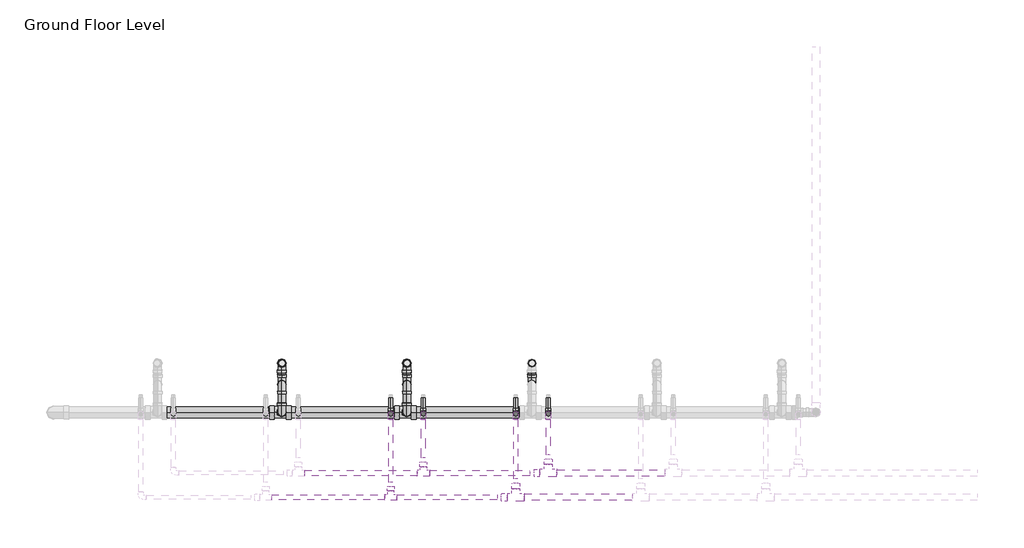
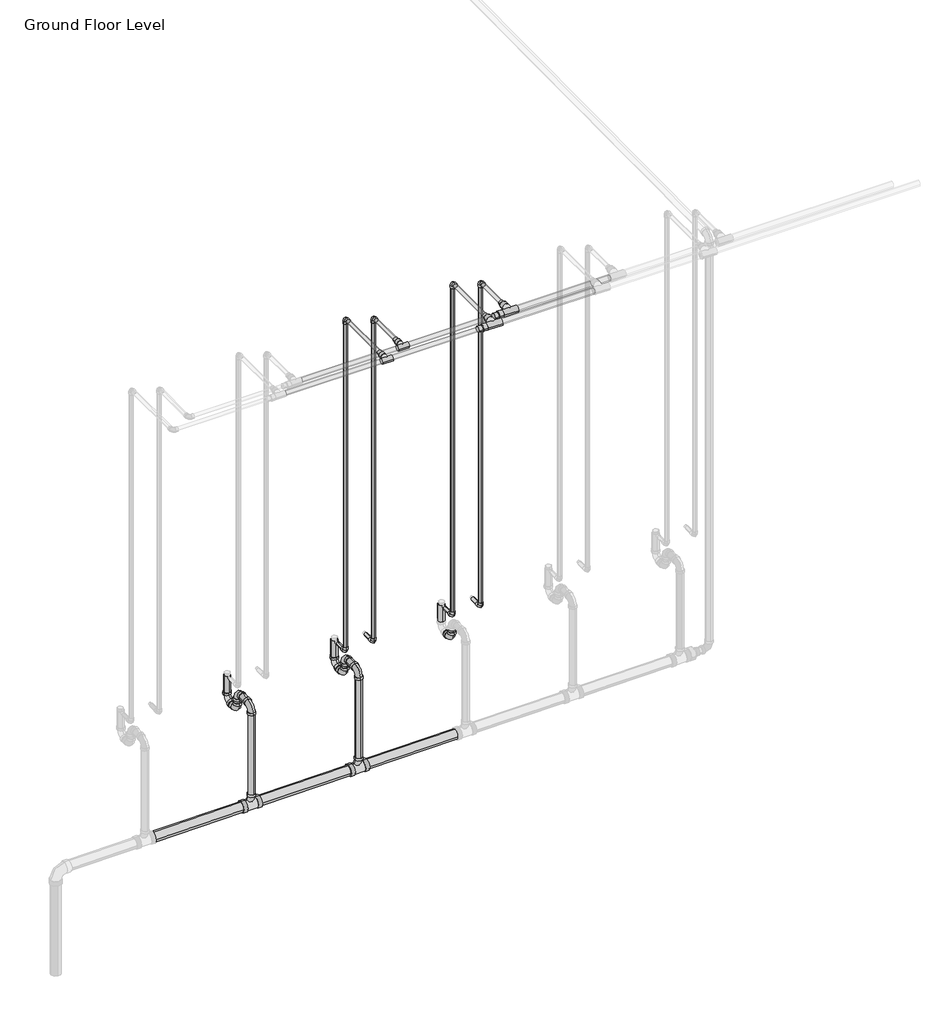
# One storey, part 40 of 74: 34 pipe segments, 29 pipe fittings.
"""IFC4 building model written with IfcOpenShell, lengths in millimetres."""

from ifc_helpers import new_model, si_unit, point, frame, frame_2d, origin, place, context, project, spatial, circle_curve, trimmed, segment, composite_curve, outline, extrude, transform, mapped, element, save
from components import m_bend_pvc_sch_40_dwv_standard_1e7bdcc1, m_bend_pvc_sch_40_dwv_standard_776e50c4, m_tee_reducing_sanitary_pvc_sch_40_dwv_standard_21d2848c, standard_b266ab3f, standard_72b35c3b, standard_08ff6011, standard_d0d0b892, standard_83629b21, standard_e954f56a

model = new_model("IFC4")

# Units and contexts
model_context = context("Model", 3, world=origin())
ifc_project = project(units=[si_unit("LENGTHUNIT", "METRE", prefix="MILLI")], contexts=[model_context])

# Site, building, storey
site = spatial("IfcSite", under=ifc_project)
building = spatial("IfcBuilding", under=site)
storey = spatial("IfcBuildingStorey", under=building, Name="Ground Floor Level", Elevation=900.0)

# Pipe fittings
placement = place(None, origin())
m_bend_pvc_sch_40_dwv_standard_shape = m_bend_pvc_sch_40_dwv_standard_1e7bdcc1(model_context)
element("IfcPipeFitting", 1, ObjectType="M_Bend - PVC - Sch 40 - DWV : Standard", at=placement, inside=storey, context=model_context, shape_type="MappedRepresentation", body=[
    mapped(m_bend_pvc_sch_40_dwv_standard_shape, transform((-19462.4847207, 9458.7835646, 1360.0), x_axis=(0.0, 0.9999500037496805, 0.009999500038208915), y_axis=(0.0, -0.009999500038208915, 0.9999500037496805), z_axis=(1.0, 0.0, 0.0))),
])
element("IfcPipeFitting", 2, ObjectType="M_Bend - PVC - Sch 40 - DWV : Standard", at=placement, inside=storey, context=model_context, shape_type="MappedRepresentation", body=[
    mapped(m_bend_pvc_sch_40_dwv_standard_shape, transform((-20262.4847207, 9458.7835646, 1360.0), x_axis=(0.0, 0.9999500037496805, 0.009999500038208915), y_axis=(0.0, -0.009999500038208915, 0.9999500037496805), z_axis=(1.0, 0.0, 0.0))),
])
element("IfcPipeFitting", 3, ObjectType="M_Bend - PVC - Sch 40 - DWV : Standard", at=placement, inside=storey, context=model_context, shape_type="MappedRepresentation", body=[
    mapped(m_bend_pvc_sch_40_dwv_standard_shape, transform((-19462.2847407, 9143.7835646, 1498.2), x_axis=(0.0, -0.9999500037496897, -0.00999950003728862), y_axis=(0.0, 0.00999950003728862, -0.9999500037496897), z_axis=(1.0, 0.0, 0.0))),
])
element("IfcPipeFitting", 4, ObjectType="M_Bend - PVC - Sch 40 - DWV : Standard", at=placement, inside=storey, context=model_context, shape_type="MappedRepresentation", body=[
    mapped(m_bend_pvc_sch_40_dwv_standard_shape, transform((-20262.2847407, 9143.7835646, 1498.2), x_axis=(0.0, -0.9999500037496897, -0.00999950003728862), y_axis=(0.0, 0.00999950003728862, -0.9999500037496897), z_axis=(1.0, 0.0, 0.0))),
])
m_bend_pvc_sch_40_dwv_standard_2_shape = m_bend_pvc_sch_40_dwv_standard_776e50c4(model_context)
element("IfcPipeFitting", 5, ObjectType="M_Bend - PVC - Sch 40 - DWV : Standard", at=placement, inside=storey, context=model_context, shape_type="MappedRepresentation", body=[
    mapped(m_bend_pvc_sch_40_dwv_standard_2_shape, transform((-18662.4847207, 9323.7835646, 1358.65), x_axis=(0.0, -0.9999500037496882, -0.009999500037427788), y_axis=(0.0, -0.009999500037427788, 0.9999500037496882), z_axis=(-1.0, 0.0, 0.0))),
])
element("IfcPipeFitting", 6, ObjectType="M_Bend - PVC - Sch 40 - DWV : Standard", at=placement, inside=storey, context=model_context, shape_type="MappedRepresentation", body=[
    mapped(m_bend_pvc_sch_40_dwv_standard_2_shape, transform((-19462.4847207, 9323.7835646, 1358.65), x_axis=(0.0, -0.9999500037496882, -0.009999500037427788), y_axis=(0.0, -0.009999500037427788, 0.9999500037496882), z_axis=(-1.0, 0.0, 0.0))),
])
element("IfcPipeFitting", 7, ObjectType="M_Bend - PVC - Sch 40 - DWV : Standard", at=placement, inside=storey, context=model_context, shape_type="MappedRepresentation", body=[
    mapped(m_bend_pvc_sch_40_dwv_standard_2_shape, transform((-19462.4847207, 9323.7835646, 1500.0), x_axis=(0.0, 0.0, 1.0), y_axis=(0.0, -1.0, 0.0), z_axis=(1.0, 0.0, 0.0))),
])
element("IfcPipeFitting", 8, ObjectType="M_Bend - PVC - Sch 40 - DWV : Standard", at=placement, inside=storey, context=model_context, shape_type="MappedRepresentation", body=[
    mapped(m_bend_pvc_sch_40_dwv_standard_2_shape, transform((-20262.4847207, 9323.7835646, 1358.65), x_axis=(0.0, -0.9999500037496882, -0.009999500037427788), y_axis=(0.0, -0.009999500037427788, 0.9999500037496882), z_axis=(-1.0, 0.0, 0.0))),
])
element("IfcPipeFitting", 9, ObjectType="M_Bend - PVC - Sch 40 - DWV : Standard", at=placement, inside=storey, context=model_context, shape_type="MappedRepresentation", body=[
    mapped(m_bend_pvc_sch_40_dwv_standard_2_shape, transform((-20262.4847207, 9323.7835646, 1500.0), x_axis=(0.0, 0.0, 1.0), y_axis=(0.0, -1.0, 0.0), z_axis=(1.0, 0.0, 0.0))),
])
m_tee_reducing_sanitary_pvc_sch_40_dwv_standard_shape = m_tee_reducing_sanitary_pvc_sch_40_dwv_standard_21d2848c(model_context)
element("IfcPipeFitting", 10, ObjectType="M_Tee Reducing Sanitary - PVC - Sch 40 - DWV : Standard", at=placement, inside=storey, context=model_context, shape_type="MappedRepresentation", body=[
    mapped(m_tee_reducing_sanitary_pvc_sch_40_dwv_standard_shape, transform((-19462.2892402, 9143.7835646, 735.2441999), x_axis=(0.9999500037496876, 0.0, 0.009999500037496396), y_axis=(0.009999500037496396, 0.0, -0.9999500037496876), z_axis=(0.0, 1.0, 0.0))),
])
element("IfcPipeFitting", 11, ObjectType="M_Tee Reducing Sanitary - PVC - Sch 40 - DWV : Standard", at=placement, inside=storey, context=model_context, shape_type="MappedRepresentation", body=[
    mapped(m_tee_reducing_sanitary_pvc_sch_40_dwv_standard_shape, transform((-20262.2892402, 9143.7835646, 727.2441999), x_axis=(0.9999500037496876, 0.0, 0.009999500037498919), y_axis=(0.009999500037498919, 0.0, -0.9999500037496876), z_axis=(0.0, 1.0, 0.0))),
])
standard_shape = standard_b266ab3f(model_context)
element("IfcPipeFitting", 12, ObjectType="M_Elbow - CPVC - Sch 40 : Standard", at=placement, inside=storey, context=model_context, shape_type="MappedRepresentation", body=[
    mapped(standard_shape, transform((-19356.9352794, 9135.2153534, 4250.0), x_axis=(0.0, 0.0, 1.0), y_axis=(0.0, -1.0, 0.0), z_axis=(1.0, 0.0, 0.0))),
])
element("IfcPipeFitting", 13, ObjectType="M_Elbow - CPVC - Sch 40 : Standard", at=placement, inside=storey, context=model_context, shape_type="MappedRepresentation", body=[
    mapped(standard_shape, transform((-18556.7923674, 9135.2153534, 4250.0), x_axis=(0.0, 0.0, 1.0), y_axis=(0.0, -1.0, 0.0), z_axis=(1.0, 0.0, 0.0))),
])
element("IfcPipeFitting", 14, ObjectType="M_Elbow - CPVC - Sch 40 : Standard", at=placement, inside=storey, context=model_context, shape_type="MappedRepresentation", body=[
    mapped(standard_shape, transform((-19565.5651206, 9135.2153534, 1690.0), x_axis=(0.0, 0.0, -1.0), y_axis=(0.0, 1.0, 0.0), z_axis=(1.0, 0.0, 0.0))),
])
element("IfcPipeFitting", 15, ObjectType="M_Elbow - CPVC - Sch 40 : Standard", at=placement, inside=storey, context=model_context, shape_type="MappedRepresentation", body=[
    mapped(standard_shape, transform((-19356.9352794, 9135.2153534, 1690.0), x_axis=(0.0, 0.0, -1.0), y_axis=(0.0, 1.0, 0.0), z_axis=(1.0, 0.0, 0.0))),
])
element("IfcPipeFitting", 16, ObjectType="M_Elbow - CPVC - Sch 40 : Standard", at=placement, inside=storey, context=model_context, shape_type="MappedRepresentation", body=[
    mapped(standard_shape, transform((-18765.4222086, 9135.2153534, 1690.0), x_axis=(0.0, 0.0, -1.0), y_axis=(-0.0014291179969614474, 0.999998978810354, 0.0), z_axis=(0.999998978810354, 0.0014291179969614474, 0.0))),
])
element("IfcPipeFitting", 17, ObjectType="M_Elbow - CPVC - Sch 40 : Standard", at=placement, inside=storey, context=model_context, shape_type="MappedRepresentation", body=[
    mapped(standard_shape, transform((-18556.7923674, 9135.2153534, 1690.0), x_axis=(0.0, 0.0, -1.0), y_axis=(-0.0014291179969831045, 0.9999989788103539, 0.0), z_axis=(0.9999989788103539, 0.0014291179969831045, 0.0))),
])
element("IfcPipeFitting", 18, ObjectType="M_Elbow - CPVC - Sch 40 : Standard", at=placement, inside=storey, context=model_context, shape_type="MappedRepresentation", body=[
    mapped(standard_shape, transform((-18765.4222086, 9135.2153534, 4315.0), x_axis=(0.0, 0.0, 1.0), y_axis=(0.0, -1.0, 0.0), z_axis=(1.0, 0.0, 0.0))),
])
element("IfcPipeFitting", 19, ObjectType="M_Elbow - CPVC - Sch 40 : Standard", at=placement, inside=storey, context=model_context, shape_type="MappedRepresentation", body=[
    mapped(standard_shape, transform((-19565.5651206, 9135.2153534, 4315.0), x_axis=(0.0, 0.0, 1.0), y_axis=(0.0, -1.0, 0.0), z_axis=(1.0, 0.0, 0.0))),
])
standard_2_shape = standard_72b35c3b(model_context)
element("IfcPipeFitting", 20, ObjectType="M_Tee - CPVC - Sch 40 : Standard", at=placement, inside=storey, context=model_context, shape_type="MappedRepresentation", body=[
    mapped(standard_2_shape, transform((-19565.5651206, 8599.9071734, 4315.0), x_axis=(1.0, 0.0, 0.0), y_axis=(0.0, -1.0, 0.0), z_axis=(0.0, 0.0, -1.0))),
])
element("IfcPipeFitting", 21, ObjectType="M_Tee - CPVC - Sch 40 : Standard", at=placement, inside=storey, context=model_context, shape_type="MappedRepresentation", body=[
    mapped(standard_2_shape, transform((-19356.9352794, 8755.2153534, 4250.0), x_axis=(-1.0, 0.0, 0.0), y_axis=(0.0, -1.0, 0.0), z_axis=(0.0, 0.0, 1.0))),
])
standard_3_shape = standard_08ff6011(model_context)
element("IfcPipeFitting", 22, ObjectType="M_Tee - CPVC - Sch 40 : Standard", at=placement, inside=storey, context=model_context, shape_type="MappedRepresentation", body=[
    mapped(standard_3_shape, transform((-18765.4222086, 8599.9071734, 4315.0), x_axis=(1.0, 0.0, 0.0), y_axis=(0.0, -1.0, 0.0), z_axis=(0.0, 0.0, -1.0))),
])
element("IfcPipeFitting", 23, ObjectType="M_Tee - CPVC - Sch 40 : Standard", at=placement, inside=storey, context=model_context, shape_type="MappedRepresentation", body=[
    mapped(standard_3_shape, transform((-18556.7923674, 8755.2153534, 4250.0), x_axis=(-1.0, 0.0, 0.0), y_axis=(0.0, -1.0, 0.0), z_axis=(0.0, 0.0, 1.0))),
])
standard_4_shape = standard_d0d0b892(model_context)
element("IfcPipeFitting", 24, ObjectType="M_Coupling Reducing - CPVC - Sch 40 : Standard", at=placement, inside=storey, context=model_context, shape_type="MappedRepresentation", body=[
    mapped(standard_4_shape, transform((-18819.3972086, 8599.9071734, 4315.0), x_axis=(-1.0, 0.0, 0.0), y_axis=(0.0, -1.0, 0.0), z_axis=(0.0, 0.0, 1.0))),
])
element("IfcPipeFitting", 25, ObjectType="M_Coupling Reducing - CPVC - Sch 40 : Standard", at=placement, inside=storey, context=model_context, shape_type="MappedRepresentation", body=[
    mapped(standard_4_shape, transform((-18610.7673674, 8755.2153534, 4250.0), x_axis=(-1.0, 0.0, 0.0), y_axis=(0.0, -1.0, 0.0), z_axis=(0.0, 0.0, 1.0))),
])
standard_5_shape = standard_83629b21(model_context)
element("IfcPipeFitting", 26, ObjectType="M_Coupling Reducing - CPVC - Sch 40 : Standard", at=placement, inside=storey, context=model_context, shape_type="MappedRepresentation", body=[
    mapped(standard_5_shape, transform((-18765.4222086, 8653.8821734, 4315.0), x_axis=(0.0, 1.0, 0.0), y_axis=(-1.0, 0.0, 0.0), z_axis=(0.0, 0.0, 1.0))),
])
element("IfcPipeFitting", 27, ObjectType="M_Coupling Reducing - CPVC - Sch 40 : Standard", at=placement, inside=storey, context=model_context, shape_type="MappedRepresentation", body=[
    mapped(standard_5_shape, transform((-18556.7923674, 8809.1903534, 4250.0), x_axis=(0.0, 1.0, 0.0), y_axis=(-1.0, 0.0, 0.0), z_axis=(0.0, 0.0, 1.0))),
])
standard_6_shape = standard_e954f56a(model_context)
element("IfcPipeFitting", 28, ObjectType="M_Coupling Reducing - CPVC - Sch 40 : Standard", at=placement, inside=storey, context=model_context, shape_type="MappedRepresentation", body=[
    mapped(standard_6_shape, transform((-19565.5651206, 8639.6073734, 4315.0), x_axis=(0.0, 1.0, 0.0), y_axis=(-1.0, 0.0, 0.0), z_axis=(0.0, 0.0, 1.0))),
])
element("IfcPipeFitting", 29, ObjectType="M_Coupling Reducing - CPVC - Sch 40 : Standard", at=placement, inside=storey, context=model_context, shape_type="MappedRepresentation", body=[
    mapped(standard_6_shape, transform((-19356.9352794, 8794.9155534, 4250.0), x_axis=(0.0, 1.0, 0.0), y_axis=(-1.0, 0.0, 0.0), z_axis=(0.0, 0.0, 1.0))),
])

# Pipe segments
element("IfcPipeSegment", 30, ObjectType="CPVC", at=placement, inside=storey, context=model_context, shape_type="SweptSolid", body=[
    extrude(outline(composite_curve([segment(trimmed(circle_curve(frame_2d((0.0, 13.335)), 13.335), [point((0.0, 26.67))], [point((13.335, 13.335))], False, "CARTESIAN"), True, "CONTINUOUS"), segment(trimmed(circle_curve(frame_2d((0.0, 13.335)), 13.335), [point((13.335, 13.335))], [point((0.0, 0.0))], False, "CARTESIAN"), True, "CONTINUOUS"), segment(trimmed(circle_curve(frame_2d((0.0, 13.335)), 13.335), [point((0.0, 0.0))], [point((-13.335, 13.335))], False, "CARTESIAN"), True, "CONTINUOUS"), segment(trimmed(circle_curve(frame_2d((0.0, 13.335)), 13.335), [point((-13.335, 13.335))], [point((0.0, 26.67))], False, "CARTESIAN"), True, "CONTINUOUS")], self_intersect=False)), frame((-19578.9001206, 9170.5404034, 1690.0), z_axis=(-1.3601818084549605e-11, 1.0, 0.0), x_axis=(0.0, 0.0, 1.0)), (0.0, 0.0, 1.0), 64.67495),
])
element("IfcPipeSegment", 31, ObjectType="CPVC", at=placement, inside=storey, context=model_context, shape_type="SweptSolid", body=[
    extrude(outline(composite_curve([segment(trimmed(circle_curve(frame_2d((4315.0, -19565.5651206)), 13.335), [point((4315.0, -19578.9001206))], [point((4301.665, -19565.5651206))], False, "CARTESIAN"), True, "CONTINUOUS"), segment(trimmed(circle_curve(frame_2d((4315.0, -19565.5651206)), 13.335), [point((4301.665, -19565.5651206))], [point((4315.0, -19552.2301206))], False, "CARTESIAN"), True, "CONTINUOUS"), segment(trimmed(circle_curve(frame_2d((4315.0, -19565.5651206)), 13.335), [point((4315.0, -19552.2301206))], [point((4328.335, -19565.5651206))], False, "CARTESIAN"), True, "CONTINUOUS"), segment(trimmed(circle_curve(frame_2d((4315.0, -19565.5651206)), 13.335), [point((4328.335, -19565.5651206))], [point((4315.0, -19578.9001206))], False, "CARTESIAN"), True, "CONTINUOUS")], self_intersect=False)), frame((0.0, 8696.7573734, 0.0), z_axis=(0.0, 1.0, 0.0), x_axis=(0.0, 0.0, 1.0)), (0.0, 0.0, 1.0), 403.13293),
])
element("IfcPipeSegment", 32, ObjectType="CPVC", at=placement, inside=storey, context=model_context, shape_type="SweptSolid", body=[
    extrude(outline(composite_curve([segment(trimmed(circle_curve(frame_2d((-19565.5651206, 9135.2153534)), 13.335), [point((-19578.9001206, 9135.2153534))], [point((-19565.5651206, 9148.5503534))], False, "CARTESIAN"), True, "CONTINUOUS"), segment(trimmed(circle_curve(frame_2d((-19565.5651206, 9135.2153534)), 13.335), [point((-19565.5651206, 9148.5503534))], [point((-19552.2301206, 9135.2153534))], False, "CARTESIAN"), True, "CONTINUOUS"), segment(trimmed(circle_curve(frame_2d((-19565.5651206, 9135.2153534)), 13.335), [point((-19552.2301206, 9135.2153534))], [point((-19565.5651206, 9121.8803534))], False, "CARTESIAN"), True, "CONTINUOUS"), segment(trimmed(circle_curve(frame_2d((-19565.5651206, 9135.2153534)), 13.335), [point((-19565.5651206, 9121.8803534))], [point((-19578.9001206, 9135.2153534))], False, "CARTESIAN"), True, "CONTINUOUS")], self_intersect=False)), frame((0.0, 0.0, 1725.32505), z_axis=(0.0, 0.0, 1.0), x_axis=(1.0, 0.0, 0.0)), (0.0, 0.0, 1.0), 2554.3499),
])
element("IfcPipeSegment", 33, ObjectType="CPVC", at=placement, inside=storey, context=model_context, shape_type="SweptSolid", body=[
    extrude(outline(composite_curve([segment(trimmed(circle_curve(frame_2d((0.0, 13.335)), 13.335), [point((0.0, 26.67))], [point((13.335, 13.335))], False, "CARTESIAN"), True, "CONTINUOUS"), segment(trimmed(circle_curve(frame_2d((0.0, 13.335)), 13.335), [point((13.335, 13.335))], [point((0.0, 0.0))], False, "CARTESIAN"), True, "CONTINUOUS"), segment(trimmed(circle_curve(frame_2d((0.0, 13.335)), 13.335), [point((0.0, 0.0))], [point((-13.335, 13.335))], False, "CARTESIAN"), True, "CONTINUOUS"), segment(trimmed(circle_curve(frame_2d((0.0, 13.335)), 13.335), [point((-13.335, 13.335))], [point((0.0, 26.67))], False, "CARTESIAN"), True, "CONTINUOUS")], self_intersect=False)), frame((-19370.2702794, 9170.5404034, 1690.0), z_axis=(-1.3642420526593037e-11, 1.0, 0.0), x_axis=(0.0, 0.0, 1.0)), (0.0, 0.0, 1.0), 64.67495),
])
element("IfcPipeSegment", 34, ObjectType="CPVC", at=placement, inside=storey, context=model_context, shape_type="SweptSolid", body=[
    extrude(outline(composite_curve([segment(trimmed(circle_curve(frame_2d((4250.0, -19356.9352794)), 13.335), [point((4250.0, -19370.2702794))], [point((4236.665, -19356.9352794))], False, "CARTESIAN"), True, "CONTINUOUS"), segment(trimmed(circle_curve(frame_2d((4250.0, -19356.9352794)), 13.335), [point((4236.665, -19356.9352794))], [point((4250.0, -19343.6002794))], False, "CARTESIAN"), True, "CONTINUOUS"), segment(trimmed(circle_curve(frame_2d((4250.0, -19356.9352794)), 13.335), [point((4250.0, -19343.6002794))], [point((4263.335, -19356.9352794))], False, "CARTESIAN"), True, "CONTINUOUS"), segment(trimmed(circle_curve(frame_2d((4250.0, -19356.9352794)), 13.335), [point((4263.335, -19356.9352794))], [point((4250.0, -19370.2702794))], False, "CARTESIAN"), True, "CONTINUOUS")], self_intersect=False)), frame((0.0, 8852.0655534, 0.0), z_axis=(0.0, 1.0, 0.0), x_axis=(0.0, 0.0, 1.0)), (0.0, 0.0, 1.0), 247.82475),
])
element("IfcPipeSegment", 35, ObjectType="CPVC", at=placement, inside=storey, context=model_context, shape_type="SweptSolid", body=[
    extrude(outline(composite_curve([segment(trimmed(circle_curve(frame_2d((-19356.9352794, 9135.2153534)), 13.335), [point((-19370.2702794, 9135.2153534))], [point((-19356.9352794, 9148.5503534))], False, "CARTESIAN"), True, "CONTINUOUS"), segment(trimmed(circle_curve(frame_2d((-19356.9352794, 9135.2153534)), 13.335), [point((-19356.9352794, 9148.5503534))], [point((-19343.6002794, 9135.2153534))], False, "CARTESIAN"), True, "CONTINUOUS"), segment(trimmed(circle_curve(frame_2d((-19356.9352794, 9135.2153534)), 13.335), [point((-19343.6002794, 9135.2153534))], [point((-19356.9352794, 9121.8803534))], False, "CARTESIAN"), True, "CONTINUOUS"), segment(trimmed(circle_curve(frame_2d((-19356.9352794, 9135.2153534)), 13.335), [point((-19356.9352794, 9121.8803534))], [point((-19370.2702794, 9135.2153534))], False, "CARTESIAN"), True, "CONTINUOUS")], self_intersect=False)), frame((0.0, 0.0, 1725.32505), z_axis=(0.0, 0.0, 1.0), x_axis=(1.0, 0.0, 0.0)), (0.0, 0.0, 1.0), 2489.3499),
])
element("IfcPipeSegment", 36, ObjectType="CPVC", at=placement, inside=storey, context=model_context, shape_type="SweptSolid", body=[
    extrude(outline(composite_curve([segment(trimmed(circle_curve(frame_2d((0.0, 13.335)), 13.335), [point((0.0, 26.67))], [point((13.335, 13.335))], False, "CARTESIAN"), True, "CONTINUOUS"), segment(trimmed(circle_curve(frame_2d((0.0, 13.335)), 13.335), [point((13.335, 13.335))], [point((0.0, 0.0))], False, "CARTESIAN"), True, "CONTINUOUS"), segment(trimmed(circle_curve(frame_2d((0.0, 13.335)), 13.335), [point((0.0, 0.0))], [point((-13.335, 13.335))], False, "CARTESIAN"), True, "CONTINUOUS"), segment(trimmed(circle_curve(frame_2d((0.0, 13.335)), 13.335), [point((-13.335, 13.335))], [point((0.0, 26.67))], False, "CARTESIAN"), True, "CONTINUOUS")], self_intersect=False)), frame((-18778.8076787, 9170.52131, 1690.0), z_axis=(-0.0014291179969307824, 0.999998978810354, 0.0), x_axis=(0.0, 0.0, 1.0)), (0.0, 0.0, 1.0), 64.6750521),
])
element("IfcPipeSegment", 37, ObjectType="CPVC", at=placement, inside=storey, context=model_context, shape_type="SweptSolid", body=[
    extrude(outline(composite_curve([segment(trimmed(circle_curve(frame_2d((4315.0, -18765.4222086)), 13.335), [point((4315.0, -18778.7572086))], [point((4301.665, -18765.4222086))], False, "CARTESIAN"), True, "CONTINUOUS"), segment(trimmed(circle_curve(frame_2d((4315.0, -18765.4222086)), 13.335), [point((4301.665, -18765.4222086))], [point((4315.0, -18752.0872086))], False, "CARTESIAN"), True, "CONTINUOUS"), segment(trimmed(circle_curve(frame_2d((4315.0, -18765.4222086)), 13.335), [point((4315.0, -18752.0872086))], [point((4328.335, -18765.4222086))], False, "CARTESIAN"), True, "CONTINUOUS"), segment(trimmed(circle_curve(frame_2d((4315.0, -18765.4222086)), 13.335), [point((4328.335, -18765.4222086))], [point((4315.0, -18778.7572086))], False, "CARTESIAN"), True, "CONTINUOUS")], self_intersect=False)), frame((0.0, 8716.6990484, 0.0), z_axis=(0.0, 1.0, 0.0), x_axis=(0.0, 0.0, 1.0)), (0.0, 0.0, 1.0), 383.191255),
])
element("IfcPipeSegment", 38, ObjectType="CPVC", at=placement, inside=storey, context=model_context, shape_type="SweptSolid", body=[
    extrude(outline(composite_curve([segment(trimmed(circle_curve(frame_2d((-18765.4222086, 9135.2153534)), 13.335), [point((-18778.7572086, 9135.2153534))], [point((-18765.4222086, 9148.5503534))], False, "CARTESIAN"), True, "CONTINUOUS"), segment(trimmed(circle_curve(frame_2d((-18765.4222086, 9135.2153534)), 13.335), [point((-18765.4222086, 9148.5503534))], [point((-18752.0872086, 9135.2153534))], False, "CARTESIAN"), True, "CONTINUOUS"), segment(trimmed(circle_curve(frame_2d((-18765.4222086, 9135.2153534)), 13.335), [point((-18752.0872086, 9135.2153534))], [point((-18765.4222086, 9121.8803534))], False, "CARTESIAN"), True, "CONTINUOUS"), segment(trimmed(circle_curve(frame_2d((-18765.4222086, 9135.2153534)), 13.335), [point((-18765.4222086, 9121.8803534))], [point((-18778.7572086, 9135.2153534))], False, "CARTESIAN"), True, "CONTINUOUS")], self_intersect=False)), frame((0.0, 0.0, 1725.32505), z_axis=(0.0, 0.0, 1.0), x_axis=(1.0, 0.0, 0.0)), (0.0, 0.0, 1.0), 2554.3499),
])
element("IfcPipeSegment", 39, ObjectType="CPVC", at=placement, inside=storey, context=model_context, shape_type="SweptSolid", body=[
    extrude(outline(composite_curve([segment(trimmed(circle_curve(frame_2d((0.0, 13.335)), 13.335), [point((0.0, 26.67))], [point((13.335, 13.335))], False, "CARTESIAN"), True, "CONTINUOUS"), segment(trimmed(circle_curve(frame_2d((0.0, 13.335)), 13.335), [point((13.335, 13.335))], [point((0.0, 0.0))], False, "CARTESIAN"), True, "CONTINUOUS"), segment(trimmed(circle_curve(frame_2d((0.0, 13.335)), 13.335), [point((0.0, 0.0))], [point((-13.335, 13.335))], False, "CARTESIAN"), True, "CONTINUOUS"), segment(trimmed(circle_curve(frame_2d((0.0, 13.335)), 13.335), [point((-13.335, 13.335))], [point((0.0, 26.67))], False, "CARTESIAN"), True, "CONTINUOUS")], self_intersect=False)), frame((-18570.1778375, 9170.52131, 1690.0), z_axis=(-0.0014291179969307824, 0.999998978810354, 0.0), x_axis=(0.0, 0.0, 1.0)), (0.0, 0.0, 1.0), 64.6750521),
])
element("IfcPipeSegment", 40, ObjectType="CPVC", at=placement, inside=storey, context=model_context, shape_type="SweptSolid", body=[
    extrude(outline(composite_curve([segment(trimmed(circle_curve(frame_2d((4250.0, -18556.7923674)), 13.335), [point((4250.0, -18570.1273674))], [point((4236.665, -18556.7923674))], False, "CARTESIAN"), True, "CONTINUOUS"), segment(trimmed(circle_curve(frame_2d((4250.0, -18556.7923674)), 13.335), [point((4236.665, -18556.7923674))], [point((4250.0, -18543.4573674))], False, "CARTESIAN"), True, "CONTINUOUS"), segment(trimmed(circle_curve(frame_2d((4250.0, -18556.7923674)), 13.335), [point((4250.0, -18543.4573674))], [point((4263.335, -18556.7923674))], False, "CARTESIAN"), True, "CONTINUOUS"), segment(trimmed(circle_curve(frame_2d((4250.0, -18556.7923674)), 13.335), [point((4263.335, -18556.7923674))], [point((4250.0, -18570.1273674))], False, "CARTESIAN"), True, "CONTINUOUS")], self_intersect=False)), frame((0.0, 8872.0072284, 0.0), z_axis=(0.0, 1.0, 0.0), x_axis=(0.0, 0.0, 1.0)), (0.0, 0.0, 1.0), 227.883075),
])
element("IfcPipeSegment", 41, ObjectType="CPVC", at=placement, inside=storey, context=model_context, shape_type="SweptSolid", body=[
    extrude(outline(composite_curve([segment(trimmed(circle_curve(frame_2d((-18556.7923674, 9135.2153534)), 13.335), [point((-18570.1273674, 9135.2153534))], [point((-18556.7923674, 9148.5503534))], False, "CARTESIAN"), True, "CONTINUOUS"), segment(trimmed(circle_curve(frame_2d((-18556.7923674, 9135.2153534)), 13.335), [point((-18556.7923674, 9148.5503534))], [point((-18543.4573674, 9135.2153534))], False, "CARTESIAN"), True, "CONTINUOUS"), segment(trimmed(circle_curve(frame_2d((-18556.7923674, 9135.2153534)), 13.335), [point((-18543.4573674, 9135.2153534))], [point((-18556.7923674, 9121.8803534))], False, "CARTESIAN"), True, "CONTINUOUS"), segment(trimmed(circle_curve(frame_2d((-18556.7923674, 9135.2153534)), 13.335), [point((-18556.7923674, 9121.8803534))], [point((-18570.1273674, 9135.2153534))], False, "CARTESIAN"), True, "CONTINUOUS")], self_intersect=False)), frame((0.0, 0.0, 1725.32505), z_axis=(0.0, 0.0, 1.0), x_axis=(1.0, 0.0, 0.0)), (0.0, 0.0, 1.0), 2489.3499),
])
element("IfcPipeSegment", 42, ObjectType="CPVC", at=placement, inside=storey, context=model_context, shape_type="SweptSolid", body=[
    extrude(outline(composite_curve([segment(trimmed(circle_curve(frame_2d((8599.9071734, 4315.0)), 21.082), [point((8620.9891734, 4315.0))], [point((8599.9071734, 4293.918))], False, "CARTESIAN"), True, "CONTINUOUS"), segment(trimmed(circle_curve(frame_2d((8599.9071734, 4315.0)), 21.082), [point((8599.9071734, 4293.918))], [point((8578.8251734, 4315.0))], False, "CARTESIAN"), True, "CONTINUOUS"), segment(trimmed(circle_curve(frame_2d((8599.9071734, 4315.0)), 21.082), [point((8578.8251734, 4315.0))], [point((8599.9071734, 4336.082))], False, "CARTESIAN"), True, "CONTINUOUS"), segment(trimmed(circle_curve(frame_2d((8599.9071734, 4315.0)), 21.082), [point((8599.9071734, 4336.082))], [point((8620.9891734, 4315.0))], False, "CARTESIAN"), True, "CONTINUOUS")], self_intersect=False)), frame((-18711.4472086, 0.0, 0.0), z_axis=(1.0, 0.0, 0.0), x_axis=(0.0, 1.0, 0.0)), (0.0, 0.0, 1.0), 692.05),
])
element("IfcPipeSegment", 43, ObjectType="CPVC", at=placement, inside=storey, context=model_context, shape_type="SweptSolid", body=[
    extrude(outline(composite_curve([segment(trimmed(circle_curve(frame_2d((8599.9071734, 4315.0)), 16.7005), [point((8616.6076734, 4315.0))], [point((8599.9071734, 4298.2995))], False, "CARTESIAN"), True, "CONTINUOUS"), segment(trimmed(circle_curve(frame_2d((8599.9071734, 4315.0)), 16.7005), [point((8599.9071734, 4298.2995))], [point((8583.2066734, 4315.0))], False, "CARTESIAN"), True, "CONTINUOUS"), segment(trimmed(circle_curve(frame_2d((8599.9071734, 4315.0)), 16.7005), [point((8583.2066734, 4315.0))], [point((8599.9071734, 4331.7005))], False, "CARTESIAN"), True, "CONTINUOUS"), segment(trimmed(circle_curve(frame_2d((8599.9071734, 4315.0)), 16.7005), [point((8599.9071734, 4331.7005))], [point((8616.6076734, 4315.0))], False, "CARTESIAN"), True, "CONTINUOUS")], self_intersect=False)), frame((-19525.8649206, 0.0, 0.0), z_axis=(1.0, 0.0, 0.0), x_axis=(0.0, 1.0, 0.0)), (0.0, 0.0, 1.0), 640.3488369),
])
element("IfcPipeSegment", 44, ObjectType="CPVC", at=placement, inside=storey, context=model_context, shape_type="SweptSolid", body=[
    extrude(outline(composite_curve([segment(trimmed(circle_curve(frame_2d((8599.9071734, 4315.0)), 16.7005), [point((8616.6076734, 4315.0))], [point((8599.9071734, 4298.2995))], False, "CARTESIAN"), True, "CONTINUOUS"), segment(trimmed(circle_curve(frame_2d((8599.9071734, 4315.0)), 16.7005), [point((8599.9071734, 4298.2995))], [point((8583.2066734, 4315.0))], False, "CARTESIAN"), True, "CONTINUOUS"), segment(trimmed(circle_curve(frame_2d((8599.9071734, 4315.0)), 16.7005), [point((8583.2066734, 4315.0))], [point((8599.9071734, 4331.7005))], False, "CARTESIAN"), True, "CONTINUOUS"), segment(trimmed(circle_curve(frame_2d((8599.9071734, 4315.0)), 16.7005), [point((8599.9071734, 4331.7005))], [point((8616.6076734, 4315.0))], False, "CARTESIAN"), True, "CONTINUOUS")], self_intersect=False)), frame((-20325.8649206, 0.0, 0.0), z_axis=(1.0, 0.0, 0.0), x_axis=(0.0, 1.0, 0.0)), (0.0, 0.0, 1.0), 720.5996),
])
element("IfcPipeSegment", 45, ObjectType="CPVC", at=placement, inside=storey, context=model_context, shape_type="SweptSolid", body=[
    extrude(outline(composite_curve([segment(trimmed(circle_curve(frame_2d((8755.2153534, 4250.0)), 16.7005), [point((8738.5148534, 4250.0))], [point((8755.2153534, 4266.7005))], False, "CARTESIAN"), True, "CONTINUOUS"), segment(trimmed(circle_curve(frame_2d((8755.2153534, 4250.0)), 16.7005), [point((8755.2153534, 4266.7005))], [point((8771.9158534, 4250.0))], False, "CARTESIAN"), True, "CONTINUOUS"), segment(trimmed(circle_curve(frame_2d((8755.2153534, 4250.0)), 16.7005), [point((8771.9158534, 4250.0))], [point((8755.2153534, 4233.2995))], False, "CARTESIAN"), True, "CONTINUOUS"), segment(trimmed(circle_curve(frame_2d((8755.2153534, 4250.0)), 16.7005), [point((8755.2153534, 4233.2995))], [point((8738.5148534, 4250.0))], False, "CARTESIAN"), True, "CONTINUOUS")], self_intersect=False)), frame((-20117.2350794, 0.0, 0.0), z_axis=(1.0, 0.0, 0.0), x_axis=(0.0, 1.0, 0.0)), (0.0, 0.0, 1.0), 720.5996),
])
element("IfcPipeSegment", 46, ObjectType="CPVC", at=placement, inside=storey, context=model_context, shape_type="SweptSolid", body=[
    extrude(outline(composite_curve([segment(trimmed(circle_curve(frame_2d((8755.2153534, 4250.0)), 16.7005), [point((8738.5148534, 4250.0))], [point((8755.2153534, 4266.7005))], False, "CARTESIAN"), True, "CONTINUOUS"), segment(trimmed(circle_curve(frame_2d((8755.2153534, 4250.0)), 16.7005), [point((8755.2153534, 4266.7005))], [point((8771.9158534, 4250.0))], False, "CARTESIAN"), True, "CONTINUOUS"), segment(trimmed(circle_curve(frame_2d((8755.2153534, 4250.0)), 16.7005), [point((8771.9158534, 4250.0))], [point((8755.2153534, 4233.2995))], False, "CARTESIAN"), True, "CONTINUOUS"), segment(trimmed(circle_curve(frame_2d((8755.2153534, 4250.0)), 16.7005), [point((8755.2153534, 4233.2995))], [point((8738.5148534, 4250.0))], False, "CARTESIAN"), True, "CONTINUOUS")], self_intersect=False)), frame((-19317.2350794, 0.0, 0.0), z_axis=(1.0, 0.0, 0.0), x_axis=(0.0, 1.0, 0.0)), (0.0, 0.0, 1.0), 640.3488369),
])
element("IfcPipeSegment", 47, ObjectType="CPVC", at=placement, inside=storey, context=model_context, shape_type="SweptSolid", body=[
    extrude(outline(composite_curve([segment(trimmed(circle_curve(frame_2d((8755.2153534, 4250.0)), 21.082), [point((8734.1333534, 4250.0))], [point((8755.2153534, 4271.082))], False, "CARTESIAN"), True, "CONTINUOUS"), segment(trimmed(circle_curve(frame_2d((8755.2153534, 4250.0)), 21.082), [point((8755.2153534, 4271.082))], [point((8776.2973534, 4250.0))], False, "CARTESIAN"), True, "CONTINUOUS"), segment(trimmed(circle_curve(frame_2d((8755.2153534, 4250.0)), 21.082), [point((8776.2973534, 4250.0))], [point((8755.2153534, 4228.918))], False, "CARTESIAN"), True, "CONTINUOUS"), segment(trimmed(circle_curve(frame_2d((8755.2153534, 4250.0)), 21.082), [point((8755.2153534, 4228.918))], [point((8734.1333534, 4250.0))], False, "CARTESIAN"), True, "CONTINUOUS")], self_intersect=False)), frame((-18502.8173674, 0.0, 0.0), z_axis=(1.0, 0.0, 0.0), x_axis=(0.0, 1.0, 0.0)), (0.0, 0.0, 1.0), 692.05),
])
element("IfcPipeSegment", 48, ObjectType="PVC - DWV", at=placement, inside=storey, context=model_context, shape_type="SweptSolid", body=[
    extrude(outline(composite_curve([segment(trimmed(circle_curve(frame_2d((-18662.4847207, 9458.7835646)), 24.13), [point((-18686.6147207, 9458.7835646))], [point((-18662.4847207, 9482.9135646))], False, "CARTESIAN"), True, "CONTINUOUS"), segment(trimmed(circle_curve(frame_2d((-18662.4847207, 9458.7835646)), 24.13), [point((-18662.4847207, 9482.9135646))], [point((-18638.3547207, 9458.7835646))], False, "CARTESIAN"), True, "CONTINUOUS"), segment(trimmed(circle_curve(frame_2d((-18662.4847207, 9458.7835646)), 24.13), [point((-18638.3547207, 9458.7835646))], [point((-18662.4847207, 9434.6535646))], False, "CARTESIAN"), True, "CONTINUOUS"), segment(trimmed(circle_curve(frame_2d((-18662.4847207, 9458.7835646)), 24.13), [point((-18662.4847207, 9434.6535646))], [point((-18686.6147207, 9458.7835646))], False, "CARTESIAN"), True, "CONTINUOUS")], self_intersect=False)), frame((0.0, 0.0, 1421.8998), z_axis=(0.0, 0.0, 1.0), x_axis=(1.0, 0.0, 0.0)), (0.0, 0.0, 1.0), 128.1002),
])
element("IfcPipeSegment", 49, ObjectType="PVC - DWV", at=placement, inside=storey, context=model_context, shape_type="SweptSolid", body=[
    extrude(outline(composite_curve([segment(trimmed(circle_curve(frame_2d((0.0, -24.13)), 24.13), [point((-24.13, -24.13))], [point((0.0, 0.0))], False, "CARTESIAN"), True, "CONTINUOUS"), segment(trimmed(circle_curve(frame_2d((0.0, -24.13)), 24.13), [point((0.0, 0.0))], [point((24.13, -24.13))], False, "CARTESIAN"), True, "CONTINUOUS"), segment(trimmed(circle_curve(frame_2d((0.0, -24.13)), 24.13), [point((24.13, -24.13))], [point((0.0, -48.2599999))], False, "CARTESIAN"), True, "CONTINUOUS"), segment(trimmed(circle_curve(frame_2d((0.0, -24.13)), 24.13), [point((0.0, -48.2599999))], [point((-24.13, -24.13))], False, "CARTESIAN"), True, "CONTINUOUS")], self_intersect=False)), frame((-18662.4847207, 9385.9215577, 1335.1401735), z_axis=(0.0, 0.9999500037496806, 0.009999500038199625), x_axis=(1.0, 0.0, 0.0)), (0.0, 0.0, 1.0), 11.2071498),
])
element("IfcPipeSegment", 50, ObjectType="PVC - DWV", at=placement, inside=storey, context=model_context, shape_type="SweptSolid", body=[
    extrude(outline(composite_curve([segment(trimmed(circle_curve(frame_2d((-18662.4847207, 9323.7835646)), 24.13), [point((-18686.6147207, 9323.7835646))], [point((-18662.4847207, 9347.9135646))], False, "CARTESIAN"), True, "CONTINUOUS"), segment(trimmed(circle_curve(frame_2d((-18662.4847207, 9323.7835646)), 24.13), [point((-18662.4847207, 9347.9135646))], [point((-18638.3547207, 9323.7835646))], False, "CARTESIAN"), True, "CONTINUOUS"), segment(trimmed(circle_curve(frame_2d((-18662.4847207, 9323.7835646)), 24.13), [point((-18638.3547207, 9323.7835646))], [point((-18662.4847207, 9299.6535646))], False, "CARTESIAN"), True, "CONTINUOUS"), segment(trimmed(circle_curve(frame_2d((-18662.4847207, 9323.7835646)), 24.13), [point((-18662.4847207, 9299.6535646))], [point((-18686.6147207, 9323.7835646))], False, "CARTESIAN"), True, "CONTINUOUS")], self_intersect=False)), frame((0.0, 0.0, 1420.5498), z_axis=(0.0, 0.0, 1.0), x_axis=(1.0, 0.0, 0.0)), (0.0, 0.0, 1.0), 17.5504),
])
element("IfcPipeSegment", 51, ObjectType="PVC - DWV", at=placement, inside=storey, context=model_context, shape_type="SweptSolid", body=[
    extrude(outline(composite_curve([segment(trimmed(circle_curve(frame_2d((-19462.4847207, 9458.7835646)), 24.13), [point((-19486.6147207, 9458.7835646))], [point((-19462.4847207, 9482.9135646))], False, "CARTESIAN"), True, "CONTINUOUS"), segment(trimmed(circle_curve(frame_2d((-19462.4847207, 9458.7835646)), 24.13), [point((-19462.4847207, 9482.9135646))], [point((-19438.3547207, 9458.7835646))], False, "CARTESIAN"), True, "CONTINUOUS"), segment(trimmed(circle_curve(frame_2d((-19462.4847207, 9458.7835646)), 24.13), [point((-19438.3547207, 9458.7835646))], [point((-19462.4847207, 9434.6535646))], False, "CARTESIAN"), True, "CONTINUOUS"), segment(trimmed(circle_curve(frame_2d((-19462.4847207, 9458.7835646)), 24.13), [point((-19462.4847207, 9434.6535646))], [point((-19486.6147207, 9458.7835646))], False, "CARTESIAN"), True, "CONTINUOUS")], self_intersect=False)), frame((0.0, 0.0, 1421.8998), z_axis=(0.0, 0.0, 1.0), x_axis=(1.0, 0.0, 0.0)), (0.0, 0.0, 1.0), 128.1002),
])
element("IfcPipeSegment", 52, ObjectType="PVC - DWV", at=placement, inside=storey, context=model_context, shape_type="SweptSolid", body=[
    extrude(outline(composite_curve([segment(trimmed(circle_curve(frame_2d((0.0, -24.13)), 24.13), [point((-24.13, -24.13))], [point((0.0, 0.0))], False, "CARTESIAN"), True, "CONTINUOUS"), segment(trimmed(circle_curve(frame_2d((0.0, -24.13)), 24.13), [point((0.0, 0.0))], [point((24.13, -24.13))], False, "CARTESIAN"), True, "CONTINUOUS"), segment(trimmed(circle_curve(frame_2d((0.0, -24.13)), 24.13), [point((24.13, -24.13))], [point((0.0, -48.2599999))], False, "CARTESIAN"), True, "CONTINUOUS"), segment(trimmed(circle_curve(frame_2d((0.0, -24.13)), 24.13), [point((0.0, -48.2599999))], [point((-24.13, -24.13))], False, "CARTESIAN"), True, "CONTINUOUS")], self_intersect=False)), frame((-19462.4847207, 9385.9215577, 1335.1401735), z_axis=(0.0, 0.9999500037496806, 0.009999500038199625), x_axis=(1.0, 0.0, 0.0)), (0.0, 0.0, 1.0), 11.2071498),
])
element("IfcPipeSegment", 53, ObjectType="PVC - DWV", at=placement, inside=storey, context=model_context, shape_type="SweptSolid", body=[
    extrude(outline(composite_curve([segment(trimmed(circle_curve(frame_2d((-19462.4847207, 9323.7835646)), 24.13), [point((-19486.6147207, 9323.7835646))], [point((-19462.4847207, 9347.9135646))], False, "CARTESIAN"), True, "CONTINUOUS"), segment(trimmed(circle_curve(frame_2d((-19462.4847207, 9323.7835646)), 24.13), [point((-19462.4847207, 9347.9135646))], [point((-19438.3547207, 9323.7835646))], False, "CARTESIAN"), True, "CONTINUOUS"), segment(trimmed(circle_curve(frame_2d((-19462.4847207, 9323.7835646)), 24.13), [point((-19438.3547207, 9323.7835646))], [point((-19462.4847207, 9299.6535646))], False, "CARTESIAN"), True, "CONTINUOUS"), segment(trimmed(circle_curve(frame_2d((-19462.4847207, 9323.7835646)), 24.13), [point((-19462.4847207, 9299.6535646))], [point((-19486.6147207, 9323.7835646))], False, "CARTESIAN"), True, "CONTINUOUS")], self_intersect=False)), frame((0.0, 0.0, 1420.5498), z_axis=(0.0, 0.0, 1.0), x_axis=(1.0, 0.0, 0.0)), (0.0, 0.0, 1.0), 17.5504),
])
element("IfcPipeSegment", 54, ObjectType="PVC - DWV", at=placement, inside=storey, context=model_context, shape_type="SweptSolid", body=[
    extrude(outline(composite_curve([segment(trimmed(circle_curve(frame_2d((0.0, -24.13)), 24.13), [point((-24.13, -24.13))], [point((0.0, 0.0))], False, "CARTESIAN"), True, "CONTINUOUS"), segment(trimmed(circle_curve(frame_2d((0.0, -24.13)), 24.13), [point((0.0, 0.0))], [point((24.13, -24.13))], False, "CARTESIAN"), True, "CONTINUOUS"), segment(trimmed(circle_curve(frame_2d((0.0, -24.13)), 24.13), [point((24.13, -24.13))], [point((0.0, -48.2599999))], False, "CARTESIAN"), True, "CONTINUOUS"), segment(trimmed(circle_curve(frame_2d((0.0, -24.13)), 24.13), [point((0.0, -48.2599999))], [point((-24.13, -24.13))], False, "CARTESIAN"), True, "CONTINUOUS")], self_intersect=False)), frame((-19462.2847407, 9205.9215577, 1474.6901735), z_axis=(0.0, 0.9999500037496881, 0.009999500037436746), x_axis=(1.0, 0.0, 0.0)), (0.0, 0.0, 1.0), 56.2093998),
])
element("IfcPipeSegment", 55, ObjectType="PVC - DWV", at=placement, inside=storey, context=model_context, shape_type="SweptSolid", body=[
    extrude(outline(composite_curve([segment(trimmed(circle_curve(frame_2d((0.0, 24.13)), 24.13), [point((-24.13, 24.13))], [point((0.0, 48.26))], False, "CARTESIAN"), True, "CONTINUOUS"), segment(trimmed(circle_curve(frame_2d((0.0, 24.13)), 24.13), [point((0.0, 48.26))], [point((24.13, 24.13))], False, "CARTESIAN"), True, "CONTINUOUS"), segment(trimmed(circle_curve(frame_2d((0.0, 24.13)), 24.13), [point((24.13, 24.13))], [point((0.0, 0.0))], False, "CARTESIAN"), True, "CONTINUOUS"), segment(trimmed(circle_curve(frame_2d((0.0, 24.13)), 24.13), [point((0.0, 0.0))], [point((-24.13, 24.13))], False, "CARTESIAN"), True, "CONTINUOUS")], self_intersect=False)), frame((-19462.2892402, 9119.6535646, 816.0916561), z_axis=(7.254898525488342e-06, 0.0, 0.9999999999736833), x_axis=(0.9999999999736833, 0.0, -7.254898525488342e-06)), (0.0, 0.0, 1.0), 620.2085439),
])
element("IfcPipeSegment", 56, ObjectType="PVC - DWV", at=placement, inside=storey, context=model_context, shape_type="SweptSolid", body=[
    extrude(outline(composite_curve([segment(trimmed(circle_curve(frame_2d((-20262.4847207, 9458.7835646)), 24.13), [point((-20286.6147207, 9458.7835646))], [point((-20262.4847207, 9482.9135646))], False, "CARTESIAN"), True, "CONTINUOUS"), segment(trimmed(circle_curve(frame_2d((-20262.4847207, 9458.7835646)), 24.13), [point((-20262.4847207, 9482.9135646))], [point((-20238.3547207, 9458.7835646))], False, "CARTESIAN"), True, "CONTINUOUS"), segment(trimmed(circle_curve(frame_2d((-20262.4847207, 9458.7835646)), 24.13), [point((-20238.3547207, 9458.7835646))], [point((-20262.4847207, 9434.6535646))], False, "CARTESIAN"), True, "CONTINUOUS"), segment(trimmed(circle_curve(frame_2d((-20262.4847207, 9458.7835646)), 24.13), [point((-20262.4847207, 9434.6535646))], [point((-20286.6147207, 9458.7835646))], False, "CARTESIAN"), True, "CONTINUOUS")], self_intersect=False)), frame((0.0, 0.0, 1421.8998), z_axis=(0.0, 0.0, 1.0), x_axis=(1.0, 0.0, 0.0)), (0.0, 0.0, 1.0), 128.1002),
])
element("IfcPipeSegment", 57, ObjectType="PVC - DWV", at=placement, inside=storey, context=model_context, shape_type="SweptSolid", body=[
    extrude(outline(composite_curve([segment(trimmed(circle_curve(frame_2d((0.0, -24.13)), 24.13), [point((-24.13, -24.13))], [point((0.0, 0.0))], False, "CARTESIAN"), True, "CONTINUOUS"), segment(trimmed(circle_curve(frame_2d((0.0, -24.13)), 24.13), [point((0.0, 0.0))], [point((24.13, -24.13))], False, "CARTESIAN"), True, "CONTINUOUS"), segment(trimmed(circle_curve(frame_2d((0.0, -24.13)), 24.13), [point((24.13, -24.13))], [point((0.0, -48.2599999))], False, "CARTESIAN"), True, "CONTINUOUS"), segment(trimmed(circle_curve(frame_2d((0.0, -24.13)), 24.13), [point((0.0, -48.2599999))], [point((-24.13, -24.13))], False, "CARTESIAN"), True, "CONTINUOUS")], self_intersect=False)), frame((-20262.4847207, 9385.9215577, 1335.1401735), z_axis=(0.0, 0.9999500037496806, 0.009999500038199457), x_axis=(1.0, 0.0, 0.0)), (0.0, 0.0, 1.0), 11.2071498),
])
element("IfcPipeSegment", 58, ObjectType="PVC - DWV", at=placement, inside=storey, context=model_context, shape_type="SweptSolid", body=[
    extrude(outline(composite_curve([segment(trimmed(circle_curve(frame_2d((-20262.4847207, 9323.7835646)), 24.13), [point((-20286.6147207, 9323.7835646))], [point((-20262.4847207, 9347.9135646))], False, "CARTESIAN"), True, "CONTINUOUS"), segment(trimmed(circle_curve(frame_2d((-20262.4847207, 9323.7835646)), 24.13), [point((-20262.4847207, 9347.9135646))], [point((-20238.3547207, 9323.7835646))], False, "CARTESIAN"), True, "CONTINUOUS"), segment(trimmed(circle_curve(frame_2d((-20262.4847207, 9323.7835646)), 24.13), [point((-20238.3547207, 9323.7835646))], [point((-20262.4847207, 9299.6535646))], False, "CARTESIAN"), True, "CONTINUOUS"), segment(trimmed(circle_curve(frame_2d((-20262.4847207, 9323.7835646)), 24.13), [point((-20262.4847207, 9299.6535646))], [point((-20286.6147207, 9323.7835646))], False, "CARTESIAN"), True, "CONTINUOUS")], self_intersect=False)), frame((0.0, 0.0, 1420.5498), z_axis=(0.0, 0.0, 1.0), x_axis=(1.0, 0.0, 0.0)), (0.0, 0.0, 1.0), 17.5504),
])
element("IfcPipeSegment", 59, ObjectType="PVC - DWV", at=placement, inside=storey, context=model_context, shape_type="SweptSolid", body=[
    extrude(outline(composite_curve([segment(trimmed(circle_curve(frame_2d((0.0, -24.13)), 24.13), [point((-24.13, -24.13))], [point((0.0, 0.0))], False, "CARTESIAN"), True, "CONTINUOUS"), segment(trimmed(circle_curve(frame_2d((0.0, -24.13)), 24.13), [point((0.0, 0.0))], [point((24.13, -24.13))], False, "CARTESIAN"), True, "CONTINUOUS"), segment(trimmed(circle_curve(frame_2d((0.0, -24.13)), 24.13), [point((24.13, -24.13))], [point((0.0, -48.2599999))], False, "CARTESIAN"), True, "CONTINUOUS"), segment(trimmed(circle_curve(frame_2d((0.0, -24.13)), 24.13), [point((0.0, -48.2599999))], [point((-24.13, -24.13))], False, "CARTESIAN"), True, "CONTINUOUS")], self_intersect=False)), frame((-20262.2847407, 9205.9215577, 1474.6901735), z_axis=(0.0, 0.9999500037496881, 0.009999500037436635), x_axis=(1.0, 0.0, 0.0)), (0.0, 0.0, 1.0), 56.2093998),
])
element("IfcPipeSegment", 60, ObjectType="PVC - DWV", at=placement, inside=storey, context=model_context, shape_type="SweptSolid", body=[
    extrude(outline(composite_curve([segment(trimmed(circle_curve(frame_2d((0.0, 24.13)), 24.13), [point((-24.13, 24.13))], [point((0.0, 48.26))], False, "CARTESIAN"), True, "CONTINUOUS"), segment(trimmed(circle_curve(frame_2d((0.0, 24.13)), 24.13), [point((0.0, 48.26))], [point((24.13, 24.13))], False, "CARTESIAN"), True, "CONTINUOUS"), segment(trimmed(circle_curve(frame_2d((0.0, 24.13)), 24.13), [point((24.13, 24.13))], [point((0.0, 0.0))], False, "CARTESIAN"), True, "CONTINUOUS"), segment(trimmed(circle_curve(frame_2d((0.0, 24.13)), 24.13), [point((0.0, 0.0))], [point((-24.13, 24.13))], False, "CARTESIAN"), True, "CONTINUOUS")], self_intersect=False)), frame((-20262.2892402, 9119.6535646, 808.0916561), z_axis=(7.162510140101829e-06, 0.0, 0.9999999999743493), x_axis=(0.9999999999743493, 0.0, -7.162510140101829e-06)), (0.0, 0.0, 1.0), 628.2085439),
])
element("IfcPipeSegment", 61, ObjectType="PVC - DWV", at=placement, inside=storey, context=model_context, shape_type="SweptSolid", body=[
    extrude(outline(composite_curve([segment(trimmed(circle_curve(frame_2d((0.0, -36.5125)), 36.5125), [point((0.0, 0.0))], [point((36.5125, -36.5125))], False, "CARTESIAN"), True, "CONTINUOUS"), segment(trimmed(circle_curve(frame_2d((0.0, -36.5125)), 36.5125), [point((36.5125, -36.5125))], [point((0.0, -73.025))], False, "CARTESIAN"), True, "CONTINUOUS"), segment(trimmed(circle_curve(frame_2d((0.0, -36.5125)), 36.5125), [point((0.0, -73.025))], [point((-36.5125001, -36.5125))], False, "CARTESIAN"), True, "CONTINUOUS"), segment(trimmed(circle_curve(frame_2d((0.0, -36.5125)), 36.5125), [point((-36.5125001, -36.5125))], [point((0.0, 0.0))], False, "CARTESIAN"), True, "CONTINUOUS")], self_intersect=False)), frame((-19402.806471, 9180.2960646, 735.8390275), z_axis=(0.9999500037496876, 0.0, 0.009999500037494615), x_axis=(0.009999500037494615, 0.0, -0.9999500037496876)), (0.0, 0.0, 1.0), 661.4911369),
])
element("IfcPipeSegment", 62, ObjectType="PVC - DWV", at=placement, inside=storey, context=model_context, shape_type="SweptSolid", body=[
    extrude(outline(composite_curve([segment(trimmed(circle_curve(frame_2d((0.0, -36.5125)), 36.5125), [point((0.0, 0.0))], [point((36.5125, -36.5125))], False, "CARTESIAN"), True, "CONTINUOUS"), segment(trimmed(circle_curve(frame_2d((0.0, -36.5125)), 36.5125), [point((36.5125, -36.5125))], [point((0.0, -73.025))], False, "CARTESIAN"), True, "CONTINUOUS"), segment(trimmed(circle_curve(frame_2d((0.0, -36.5125)), 36.5125), [point((0.0, -73.025))], [point((-36.5125001, -36.5125))], False, "CARTESIAN"), True, "CONTINUOUS"), segment(trimmed(circle_curve(frame_2d((0.0, -36.5125)), 36.5125), [point((-36.5125001, -36.5125))], [point((0.0, 0.0))], False, "CARTESIAN"), True, "CONTINUOUS")], self_intersect=False)), frame((-20202.806471, 9180.2960646, 727.8390275), z_axis=(0.9999500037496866, 0.0, 0.00999950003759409), x_axis=(0.00999950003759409, 0.0, -0.9999500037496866)), (0.0, 0.0, 1.0), 661.4911369),
])
element("IfcPipeSegment", 63, ObjectType="PVC - DWV", at=placement, inside=storey, context=model_context, shape_type="SweptSolid", body=[
    extrude(outline(composite_curve([segment(trimmed(circle_curve(frame_2d((0.0, -36.5125)), 36.5125), [point((0.0, 0.0))], [point((36.5125, -36.5125))], False, "CARTESIAN"), True, "CONTINUOUS"), segment(trimmed(circle_curve(frame_2d((0.0, -36.5125)), 36.5125), [point((36.5125, -36.5125))], [point((0.0, -73.025))], False, "CARTESIAN"), True, "CONTINUOUS"), segment(trimmed(circle_curve(frame_2d((0.0, -36.5125)), 36.5125), [point((0.0, -73.025))], [point((-36.5125001, -36.5125))], False, "CARTESIAN"), True, "CONTINUOUS"), segment(trimmed(circle_curve(frame_2d((0.0, -36.5125)), 36.5125), [point((-36.5125001, -36.5125))], [point((0.0, 0.0))], False, "CARTESIAN"), True, "CONTINUOUS")], self_intersect=False)), frame((-20997.8069709, 9180.2960646, 719.8890225), z_axis=(0.9999500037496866, 0.0, 0.00999950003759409), x_axis=(0.00999950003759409, 0.0, -0.9999500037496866)), (0.0, 0.0, 1.0), 656.4913869),
])

save(model, "model.ifc")
